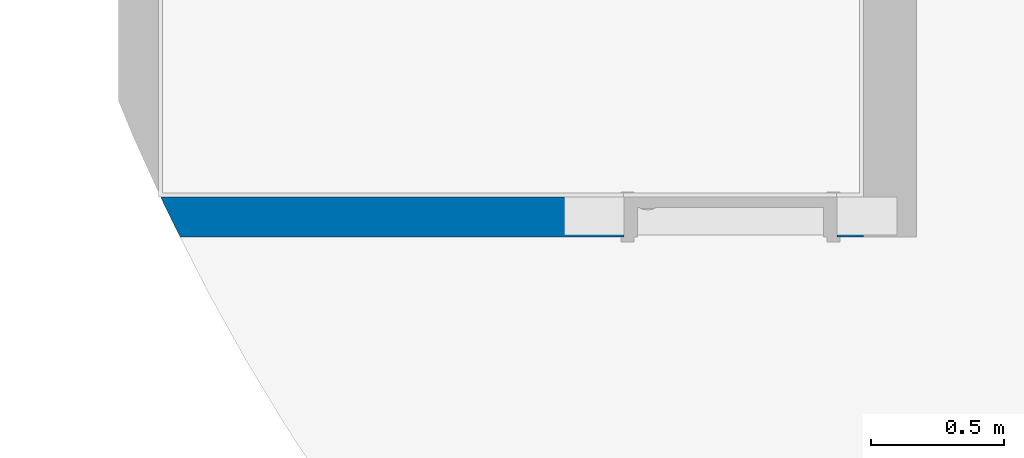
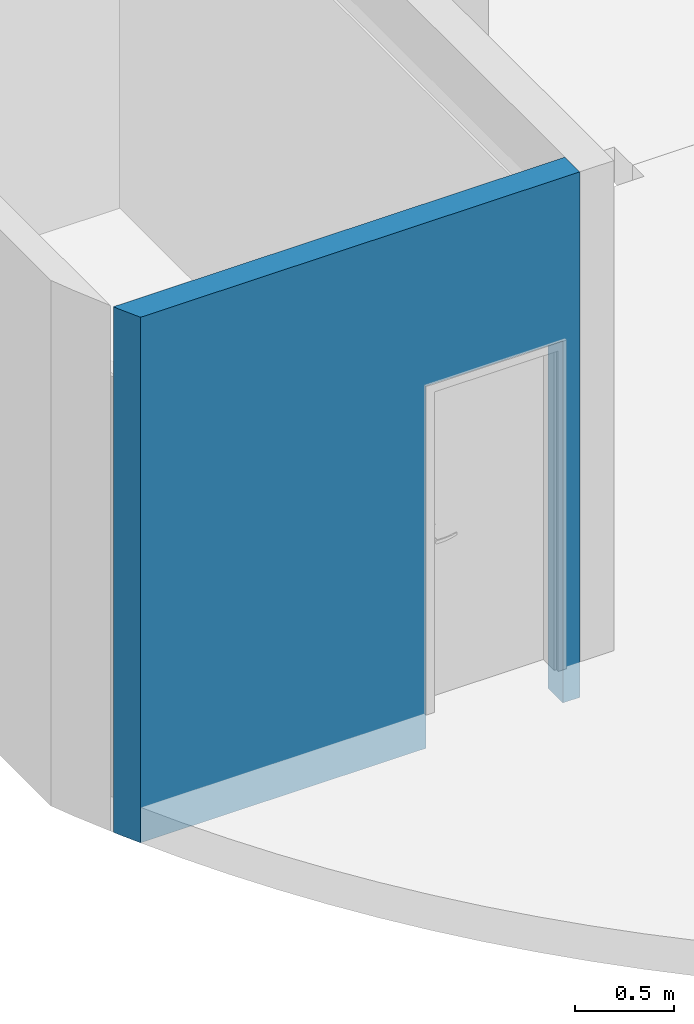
# One storey, part 10 of 21: 1 wall, 1 opening.
"""IFC4 building model written with IfcOpenShell, lengths in millimetres."""

from ifc_helpers import new_model, entity, si_unit, converted_unit, derived_unit, direction, frame, origin_with_axes, place, context, subcontext, project, spatial, polygons, material, constituent, constituent_set, type_object, element, save


model = new_model("IFC4")

# Units and contexts
model_context = context("Model", 3, precision=0.01, world=origin_with_axes(), true_north=direction((0.0, 1.0)))
body_context = subcontext(model_context, "Body", "Model", "MODEL_VIEW")
ifc_project = project(units=[si_unit("LENGTHUNIT", "METRE", prefix="MILLI"), si_unit("AREAUNIT", "SQUARE_METRE"), si_unit("VOLUMEUNIT", "CUBIC_METRE"), converted_unit("PLANEANGLEUNIT", "DEGREE", entity("IfcPlaneAngleMeasure", 0.0174532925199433), si_unit("PLANEANGLEUNIT", "RADIAN"), dimensions=[0, 0, 0, 0, 0, 0, 0]), converted_unit("TIMEUNIT", "Year", entity("IfcTimeMeasure", 31557600.0), si_unit("TIMEUNIT", "SECOND"), dimensions=[0, 0, 1, 0, 0, 0, 0]), si_unit("MASSUNIT", "GRAM", prefix="KILO"), si_unit("THERMODYNAMICTEMPERATUREUNIT", "DEGREE_CELSIUS"), si_unit("LUMINOUSINTENSITYUNIT", "LUMEN"), si_unit("ENERGYUNIT", "JOULE", prefix="MEGA"), derived_unit("THERMALCONDUCTANCEUNIT", [(si_unit("POWERUNIT", "WATT"), 1), (si_unit("LENGTHUNIT", "METRE"), -1), (si_unit("THERMODYNAMICTEMPERATUREUNIT", "KELVIN"), -1)]), derived_unit("SPECIFICHEATCAPACITYUNIT", [(si_unit("ENERGYUNIT", "JOULE"), 1), (si_unit("MASSUNIT", "GRAM", prefix="KILO"), -1), (si_unit("THERMODYNAMICTEMPERATUREUNIT", "KELVIN"), -1)]), derived_unit("MASSDENSITYUNIT", [(si_unit("MASSUNIT", "GRAM", prefix="KILO"), 1), (si_unit("VOLUMEUNIT", "CUBIC_METRE"), -1)])], contexts=[model_context])

# Site, building, storey
site_placement = place(None, origin_with_axes())
site = spatial("IfcSite", under=ifc_project, at=site_placement, Name="Exteriér", CompositionType="ELEMENT")
building_placement = place(site_placement, origin_with_axes())
building = spatial("IfcBuilding", under=site, at=building_placement, Name="Univerzitní lezecké centrum", CompositionType="ELEMENT")
storey_placement = place(building_placement, frame((0.0, 0.0, -3350.0), z_axis=(0.0, 0.0, 1.0), x_axis=(1.0, 0.0, 0.0)))
storey = spatial("IfcBuildingStorey", under=building, at=storey_placement, Name="1.PP", CompositionType="ELEMENT", Elevation=-3350.0)

# Wall, opening
ifc_material = material(Name="Keramické tvárnice nenosné tl. 150 mm")
ifc_constituent = constituent(ifc_material, Name="Keramické tvárnice nenosné tl. 150 mm")
ifc_constituent_set = constituent_set(constituents=[ifc_constituent], Name="!Vnitřní keramická stěna 150 mm - nenosná*")
wall_type = type_object("IfcWallType", Name="!Vnitřní keramická stěna 150 mm - nenosná* 150", PredefinedType="NOTDEFINED")
wall_placement = place(storey_placement, frame((-4791.695147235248, -3699.999999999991, -220.0000000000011), z_axis=(0.0, 0.0, 1.0), x_axis=(1.0, 0.0, 0.0)))
wall = element("IfcWall", 1, at=wall_placement, inside=storey, type_object=wall_type, material=ifc_constituent_set, Name="St07*", PredefinedType="NOTDEFINED", context=body_context, shape_type="Tessellation", body=[
    polygons([(1741.760140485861, -149.9999254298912, 0.500000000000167), (1741.760140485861, 3.536676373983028e-05, 0.500000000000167), (1741.760101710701, 0.0, 220.0000000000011), (1741.760101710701, -150.0000000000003, 220.0000000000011), (1741.760140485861, 3.536676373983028e-05, 0.0), (1741.760140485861, -149.9999254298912, 0.0), (2541.76012063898, 3.536676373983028e-05, 0.0), (2541.76012063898, 3.536676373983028e-05, 0.500000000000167), (2541.7601017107, 0.0, 220.0000000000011), (2541.7601017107, 0.0, 2240.000000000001), (1741.760101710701, 0.0, 2240.000000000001), (-0.7404138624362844, 0.0, 0.0), (-0.7404138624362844, 0.0, 3250.000000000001), (0.0, 0.0, 3250.0), (2641.286278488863, 0.0, 3250.0), (2641.286278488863, 0.0, 2321.0), (1516.760101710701, 0.0, 2321.0), (1516.760101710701, 0.0, 2250.000000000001), (2641.286278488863, 0.0, 2250.000000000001), (2641.286278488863, 0.0, 0.0), (1741.760101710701, -150.0000000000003, 2240.000000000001), (2541.76012063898, -149.9999254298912, 0.500000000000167), (2541.76012063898, -149.9999254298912, 0.0), (2641.286278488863, -150.0000000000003, 0.0), (2641.286278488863, -150.0000000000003, 3250.0), (72.32893967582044, -150.0000000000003, 3250.0), (72.32893967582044, -150.0000000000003, 0.0), (2541.7601017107, -150.0000000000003, 2240.000000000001), (2541.7601017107, -149.9999999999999, 220.0000000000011), (15.14796705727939, -35.01472765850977, 0.0), (15.14796705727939, -35.01472765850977, 3250.0), (0.0, -1.631720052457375, 3250.0), (2641.286278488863, -144.274998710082, 2321.0), (2641.286278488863, -144.274998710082, 2250.000000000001), (1516.760101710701, -144.274998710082, 2321.0), (1516.760101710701, -144.274998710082, 2250.000000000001), (1516.760101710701, -11.4424999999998, 2280.499637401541), (1516.760101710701, -11.4424999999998, 2260.499637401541), (1516.760101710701, -33.33249999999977, 2260.499637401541), (1516.760101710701, -33.33249999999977, 2280.499637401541), (1516.760101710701, -11.4424999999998, 2310.500000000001), (1516.760101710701, -11.4424999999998, 2290.5), (1516.760101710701, -33.33249999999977, 2290.5), (1516.760101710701, -33.33249999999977, 2310.500000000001), (1516.760101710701, -110.9413637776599, 2260.499637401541), (1516.760101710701, -132.8313637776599, 2260.499637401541), (1516.760101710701, -132.8313637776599, 2280.499637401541), (1516.760101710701, -110.9413637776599, 2280.499637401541), (1516.760101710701, -132.8313637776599, 2310.500000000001), (1516.760101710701, -110.9413637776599, 2310.500000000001), (1516.760101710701, -110.9413637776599, 2290.5), (1516.760101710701, -132.8313637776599, 2290.5), (2641.286278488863, -11.44250000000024, 2280.499637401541), (2641.286278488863, -11.44250000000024, 2260.499637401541), (2641.286278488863, -33.33250000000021, 2260.499637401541), (2641.286278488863, -33.33250000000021, 2280.499637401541), (2641.286278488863, -11.44250000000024, 2310.500000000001), (2641.286278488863, -11.44250000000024, 2290.5), (2641.286278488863, -33.33250000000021, 2290.5), (2641.286278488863, -33.33250000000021, 2310.500000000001), (2641.286278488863, -110.9413637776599, 2260.499637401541), (2641.286278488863, -132.8313637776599, 2260.499637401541), (2641.286278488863, -132.8313637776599, 2280.499637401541), (2641.286278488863, -110.9413637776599, 2280.499637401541), (2641.286278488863, -132.8313637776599, 2310.500000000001), (2641.286278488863, -110.9413637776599, 2310.500000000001), (2641.286278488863, -110.9413637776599, 2290.5), (2641.286278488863, -132.8313637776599, 2290.5)], [[[1, 2, 3, 4]], [[5, 2, 1, 6]], [[7, 8, 9, 10, 11, 3, 2, 5, 12, 13, 14, 15, 16, 17, 18, 19, 20]], [[21, 4, 3, 11]], [[22, 23, 24, 25, 26, 27, 6, 1, 4, 21, 28, 29]], [[5, 6, 27, 30, 12]], [[22, 8, 7, 23]], [[8, 22, 29, 9]], [[29, 28, 10, 9]], [[28, 21, 11, 10]], [[31, 32, 13, 12, 30]], [[14, 13, 32]], [[15, 14, 32, 31, 26, 25]], [[33, 16, 15, 25, 24, 20, 19, 34]], [[16, 33, 35, 17]], [[35, 36, 18, 17], [37, 38, 39, 40], [41, 42, 43, 44], [45, 46, 47, 48], [49, 50, 51, 52]], [[36, 34, 19, 18]], [[23, 7, 20, 24]], [[27, 26, 31, 30]], [[35, 33, 34, 36]], [[37, 53, 54, 38]], [[38, 54, 55, 39]], [[39, 55, 56, 40]], [[40, 56, 53, 37]], [[41, 57, 58, 42]], [[42, 58, 59, 43]], [[43, 59, 60, 44]], [[44, 60, 57, 41]], [[45, 61, 62, 46]], [[46, 62, 63, 47]], [[47, 63, 64, 48]], [[48, 64, 61, 45]], [[49, 65, 66, 50]], [[50, 66, 67, 51]], [[51, 67, 68, 52]], [[52, 68, 65, 49]], [[56, 55, 54, 53]], [[60, 59, 58, 57]], [[63, 62, 61, 64]], [[65, 68, 67, 66]]], closed=True),
])
opening_placement = place(wall_placement, frame((2141.760101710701, 0.0, 220.0000000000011), z_axis=(0.0, 0.0, 1.0), x_axis=(1.0, 0.0, 0.0)))
element("IfcOpeningElement", 2, at=opening_placement, cuts=wall, Name="D06", context=body_context, identifier="Reference", shape_type="Tessellation", body=[
    polygons([(-399.9999999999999, 0.9999999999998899, 2020.0), (399.9999999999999, 0.9999999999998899, 2020.0), (399.9999999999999, 0.9999999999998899, 0.0), (-399.9999999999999, 0.9999999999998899, 0.0), (-411.9999999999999, 0.9999999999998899, 0.0), (-411.9999999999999, 0.9999999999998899, 2032.0), (411.9999999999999, 0.9999999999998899, 2032.0), (411.9999999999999, 0.9999999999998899, 0.0), (-399.9999999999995, 0.0, 0.0), (399.9999999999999, 0.0, 0.0), (399.9999999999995, -149.9999999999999, 0.0), (399.9999999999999, -150.9999999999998, 0.0), (-399.9999999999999, -150.9999999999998, 0.0), (-399.9999999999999, -149.9999999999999, 0.0), (-411.9999999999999, 0.0, 0.0), (-411.9999999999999, 0.0, 2032.0), (411.9999999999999, 0.0, 2032.0), (411.9999999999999, 0.0, 0.0), (399.9999999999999, 0.0, 2020.0), (399.9999999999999, -150.0000000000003, 2020.0), (411.9999999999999, -149.9999999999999, 0.0), (411.9999999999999, -150.9999999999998, 0.0), (411.9999999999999, -151.0000000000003, 2032.0), (-411.9999999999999, -151.0000000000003, 2032.0), (-411.9999999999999, -150.9999999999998, 0.0), (-411.9999999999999, -149.9999999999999, 0.0), (-399.9999999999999, 0.0, 2020.0), (-399.9999999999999, -150.0000000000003, 2020.0), (-411.9999999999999, -150.0000000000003, 2032.0), (411.9999999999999, -150.0000000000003, 2032.0)], [[[1, 2, 3, 4]], [[3, 2, 1, 4, 5, 6, 7, 8]], [[9, 4, 3, 10, 11, 12, 13, 14]], [[4, 9, 15, 5]], [[15, 16, 6, 5]], [[16, 17, 7, 6]], [[17, 18, 8, 7]], [[10, 3, 8, 18]], [[10, 19, 20, 11]], [[12, 11, 21, 22]], [[13, 12, 22, 23, 24, 25]], [[14, 13, 25, 26]], [[27, 9, 14, 28]], [[27, 19, 10, 18, 17, 16, 15, 9]], [[19, 27, 28, 20]], [[11, 20, 28, 14, 26, 29, 30, 21]], [[21, 30, 23, 22]], [[30, 29, 24, 23]], [[29, 26, 25, 24]]], closed=True),
])

save(model, "model.ifc")
